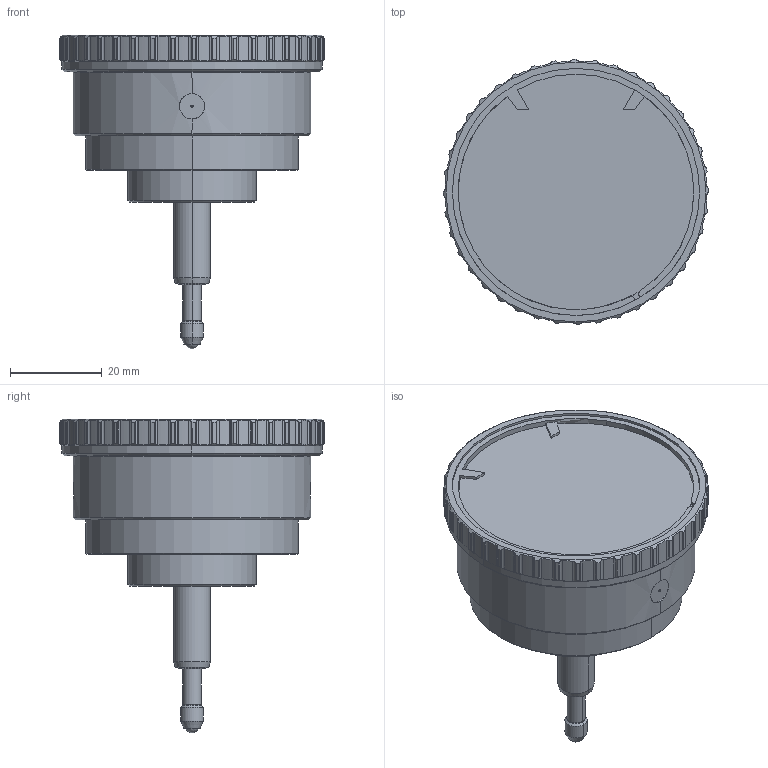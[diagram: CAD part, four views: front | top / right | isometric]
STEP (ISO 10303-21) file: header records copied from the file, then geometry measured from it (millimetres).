
FILE_DESCRIPTION(('STEP AP214'),'1');
FILE_NAME('SI-90R.STP','2016-07-21T06:20:40',(' '),(' '),'Spatial InterOp 3D',' ',' ');
FILE_SCHEMA(('automotive_design'));
Length unit declared in the file: millimetre
Products named in the file (1): 1
Bounding box: 58 x 58 x 68.49 mm (x, y, z)
Volume: 64601.4 mm3; surface area: 12194.6 mm2
Topology: 1 solids, 5 shells, 417 faces, 1151 edges, 754 vertices
Faces by surface type: cylinder 247, plane 131, cone 36, sphere 3
Entity records: 14725 total; most frequent: CARTESIAN_POINT 4669, ORIENTED_EDGE 2294, DIRECTION 1960, EDGE_CURVE 1147, AXIS2_PLACEMENT_3D 777, VERTEX_POINT 754, EDGE_LOOP 441, ADVANCED_FACE 417
